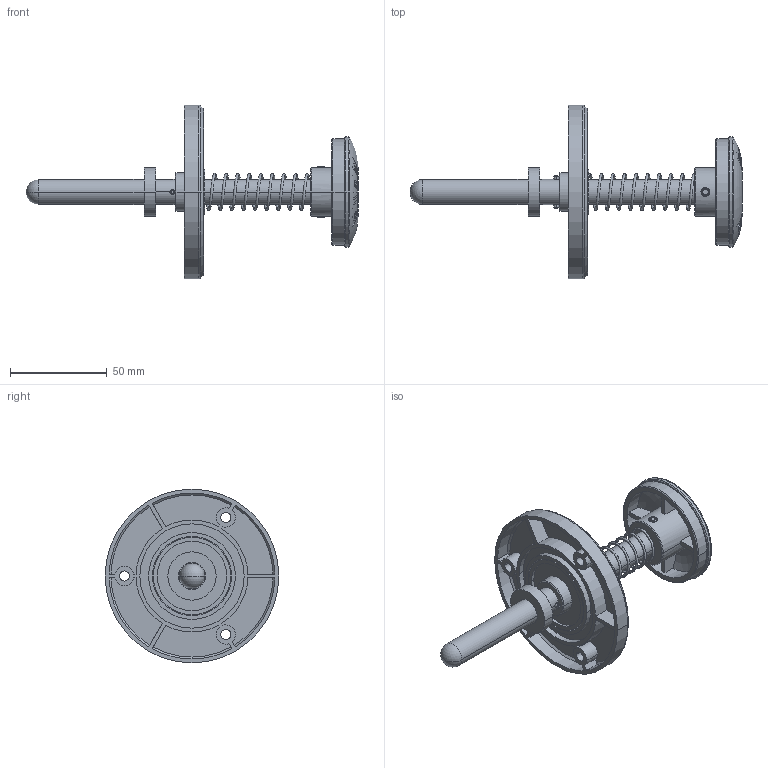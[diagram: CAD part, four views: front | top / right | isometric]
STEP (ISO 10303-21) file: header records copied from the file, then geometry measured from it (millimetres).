
FILE_DESCRIPTION (( 'STEP AP214' ), '1' );
FILE_NAME ('EB-30-80.STEP', '2020-03-18T01:54:27', ( '' ), ( '' ), 'SwSTEP 2.0', 'SolidWorks 2019', '' );
FILE_SCHEMA (( 'AUTOMOTIVE_DESIGN' ));
Length unit declared in the file: millimetre
Products named in the file (1): EB-30-80
Bounding box: 172 x 90 x 90 mm (x, y, z)
Volume: 76094.2 mm3; surface area: 43647.6 mm2
Topology: 1 solids, 1 shells, 357 faces, 913 edges, 595 vertices
Faces by surface type: plane 131, cylinder 84, bspline 78, torus 36, cone 26, sphere 2
Entity records: 18450 total; most frequent: CARTESIAN_POINT 10399, ORIENTED_EDGE 1818, DIRECTION 1405, EDGE_CURVE 909, VERTEX_POINT 593, AXIS2_PLACEMENT_3D 540, EDGE_LOOP 402, ADVANCED_FACE 357
